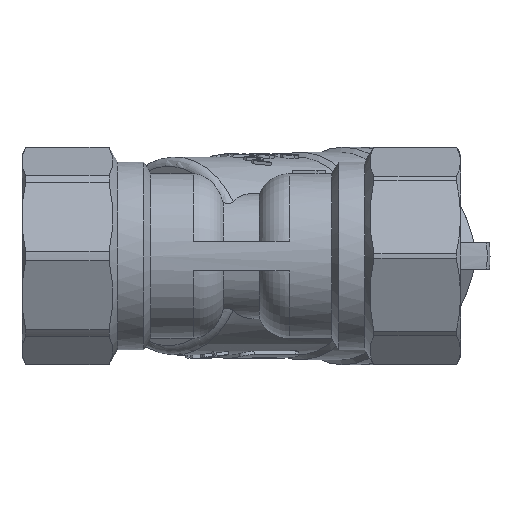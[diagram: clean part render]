
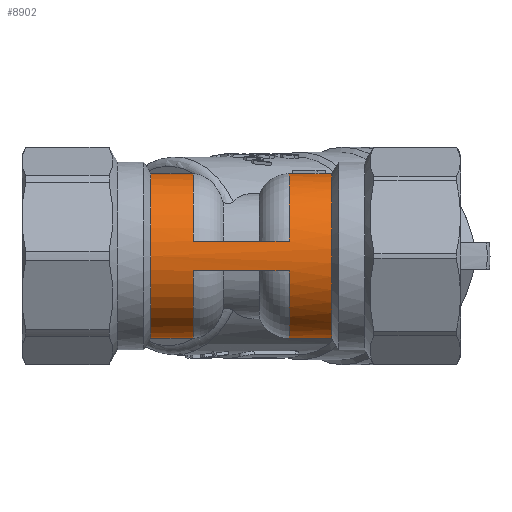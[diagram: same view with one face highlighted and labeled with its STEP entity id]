
A CAD part, front view. The second image highlights one B-rep face of the part: STEP entity #8902.
In plain terms, the highlighted cylindrical face has radius 12.5 mm (diameter 25 mm), a partial arc.
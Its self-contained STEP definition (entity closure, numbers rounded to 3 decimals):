
#28=ELLIPSE('',#9220,17.688,12.5);
#29=ELLIPSE('',#9222,17.688,12.5);
#591=B_SPLINE_CURVE_WITH_KNOTS('',3,(#15853,#15854,#15855,#15856),
 .UNSPECIFIED.,.F.,.F.,(4,4),(0.874,0.874),
 .UNSPECIFIED.);
#601=B_SPLINE_CURVE_WITH_KNOTS('',3,(#15957,#15958,#15959,#15960,#15961,
#15962),.UNSPECIFIED.,.F.,.F.,(4,2,4),(3.907,4.379,
4.66),.UNSPECIFIED.);
#606=B_SPLINE_CURVE_WITH_KNOTS('',3,(#15990,#15991,#15992,#15993,#15994,
#15995),.UNSPECIFIED.,.F.,.F.,(4,2,4),(1.178,1.459,
1.931),.UNSPECIFIED.);
#774=B_SPLINE_CURVE_WITH_KNOTS('',3,(#16983,#16984,#16985,#16986),
 .UNSPECIFIED.,.F.,.F.,(4,4),(0.306,0.306),
 .UNSPECIFIED.);
#1054=B_SPLINE_CURVE_WITH_KNOTS('',3,(#23248,#23249,#23250,#23251),
 .UNSPECIFIED.,.F.,.F.,(4,4),(0.,0.112),.UNSPECIFIED.);
#1055=B_SPLINE_CURVE_WITH_KNOTS('',3,(#23270,#23271,#23272,#23273),
 .UNSPECIFIED.,.F.,.F.,(4,4),(0.,0.112),.UNSPECIFIED.);
#1507=LINE('',#23225,#1899);
#1513=LINE('',#23280,#1905);
#1517=LINE('',#23473,#1909);
#1520=LINE('',#23524,#1912);
#1899=VECTOR('',#10041,10.);
#1905=VECTOR('',#10057,10.);
#1909=VECTOR('',#10111,10.);
#1912=VECTOR('',#10116,10.);
#2058=CYLINDRICAL_SURFACE('',#9347,12.5);
#2127=FACE_BOUND('',#3118,.T.);
#2576=FACE_OUTER_BOUND('',#3117,.T.);
#3117=EDGE_LOOP('',(#8039,#8040,#8041,#8042,#8043,#8044,#8045,#8046,#8047,
#8048,#8049,#8050,#8051,#8052));
#3118=EDGE_LOOP('',(#8053,#8054,#8055,#8056,#8057,#8058,#8059));
#3256=CIRCLE('',#9173,12.5);
#3257=CIRCLE('',#9176,12.5);
#3258=CIRCLE('',#9178,12.5);
#3272=CIRCLE('',#9207,12.5);
#3277=CIRCLE('',#9215,12.5);
#3278=CIRCLE('',#9217,12.5);
#3300=CIRCLE('',#9265,12.5);
#3333=CIRCLE('',#9346,12.5);
#3334=CIRCLE('',#9348,12.5);
#3557=VERTEX_POINT('',#15851);
#3558=VERTEX_POINT('',#15852);
#3571=VERTEX_POINT('',#15945);
#3572=VERTEX_POINT('',#15956);
#3577=VERTEX_POINT('',#15984);
#3578=VERTEX_POINT('',#15989);
#3746=VERTEX_POINT('',#16980);
#3747=VERTEX_POINT('',#16982);
#4030=VERTEX_POINT('',#23218);
#4031=VERTEX_POINT('',#23219);
#4032=VERTEX_POINT('',#23224);
#4033=VERTEX_POINT('',#23228);
#4034=VERTEX_POINT('',#23247);
#4035=VERTEX_POINT('',#23269);
#4036=VERTEX_POINT('',#23276);
#4063=VERTEX_POINT('',#23456);
#4065=VERTEX_POINT('',#23472);
#4068=VERTEX_POINT('',#23492);
#4070=VERTEX_POINT('',#23509);
#4072=VERTEX_POINT('',#23561);
#4073=VERTEX_POINT('',#23567);
#4565=EDGE_CURVE('',#3557,#3558,#591,.T.);
#4580=EDGE_CURVE('',#3572,#3571,#601,.T.);
#4586=EDGE_CURVE('',#3578,#3577,#606,.T.);
#4755=EDGE_CURVE('',#3747,#3746,#774,.T.);
#5259=EDGE_CURVE('',#4030,#4031,#3256,.T.);
#5262=EDGE_CURVE('',#4032,#4030,#1507,.T.);
#5264=EDGE_CURVE('',#4033,#4032,#3257,.T.);
#5266=EDGE_CURVE('',#4034,#4033,#1054,.T.);
#5268=EDGE_CURVE('',#4035,#4034,#1055,.T.);
#5270=EDGE_CURVE('',#4036,#4035,#3258,.T.);
#5272=EDGE_CURVE('',#4031,#4036,#1513,.T.);
#5309=EDGE_CURVE('',#4063,#4065,#1517,.T.);
#5315=EDGE_CURVE('',#4070,#4068,#1520,.T.);
#5316=EDGE_CURVE('',#3558,#4068,#3272,.T.);
#5321=EDGE_CURVE('',#3578,#4070,#3277,.T.);
#5322=EDGE_CURVE('',#4065,#3571,#3278,.T.);
#5325=EDGE_CURVE('',#3746,#4072,#28,.T.);
#5326=EDGE_CURVE('',#4073,#3557,#29,.T.);
#5394=EDGE_CURVE('',#3577,#3572,#3300,.T.);
#5498=EDGE_CURVE('',#4063,#3747,#3333,.T.);
#5499=EDGE_CURVE('',#4073,#4072,#3334,.T.);
#8039=ORIENTED_EDGE('',*,*,#5498,.T.);
#8040=ORIENTED_EDGE('',*,*,#4755,.T.);
#8041=ORIENTED_EDGE('',*,*,#5325,.T.);
#8042=ORIENTED_EDGE('',*,*,#5499,.F.);
#8043=ORIENTED_EDGE('',*,*,#5326,.T.);
#8044=ORIENTED_EDGE('',*,*,#4565,.T.);
#8045=ORIENTED_EDGE('',*,*,#5316,.T.);
#8046=ORIENTED_EDGE('',*,*,#5315,.F.);
#8047=ORIENTED_EDGE('',*,*,#5321,.F.);
#8048=ORIENTED_EDGE('',*,*,#4586,.T.);
#8049=ORIENTED_EDGE('',*,*,#5394,.T.);
#8050=ORIENTED_EDGE('',*,*,#4580,.T.);
#8051=ORIENTED_EDGE('',*,*,#5322,.F.);
#8052=ORIENTED_EDGE('',*,*,#5309,.F.);
#8053=ORIENTED_EDGE('',*,*,#5259,.T.);
#8054=ORIENTED_EDGE('',*,*,#5272,.T.);
#8055=ORIENTED_EDGE('',*,*,#5270,.T.);
#8056=ORIENTED_EDGE('',*,*,#5268,.T.);
#8057=ORIENTED_EDGE('',*,*,#5266,.T.);
#8058=ORIENTED_EDGE('',*,*,#5264,.T.);
#8059=ORIENTED_EDGE('',*,*,#5262,.T.);
#8902=ADVANCED_FACE('',(#2576,#2127),#2058,.T.);
#9173=AXIS2_PLACEMENT_3D('',#23220,#10035,#10036);
#9176=AXIS2_PLACEMENT_3D('',#23229,#10045,#10046);
#9178=AXIS2_PLACEMENT_3D('',#23277,#10052,#10053);
#9207=AXIS2_PLACEMENT_3D('',#23547,#10119,#10120);
#9215=AXIS2_PLACEMENT_3D('',#23555,#10135,#10136);
#9217=AXIS2_PLACEMENT_3D('',#23557,#10139,#10140);
#9220=AXIS2_PLACEMENT_3D('',#23565,#10145,#10146);
#9222=AXIS2_PLACEMENT_3D('',#23568,#10149,#10150);
#9265=AXIS2_PLACEMENT_3D('',#23805,#10247,#10248);
#9346=AXIS2_PLACEMENT_3D('',#24121,#10437,#10438);
#9347=AXIS2_PLACEMENT_3D('',#24122,#10439,#10440);
#9348=AXIS2_PLACEMENT_3D('',#24123,#10441,#10442);
#10035=DIRECTION('center_axis',(-1.,0.,0.));
#10036=DIRECTION('ref_axis',(0.,-1.,0.));
#10041=DIRECTION('',(-1.,0.,0.));
#10045=DIRECTION('center_axis',(-1.,0.,0.));
#10046=DIRECTION('ref_axis',(0.,-1.,0.));
#10052=DIRECTION('center_axis',(-1.,0.,0.));
#10053=DIRECTION('ref_axis',(0.,-1.,0.));
#10057=DIRECTION('',(1.,0.,0.));
#10111=DIRECTION('',(1.,0.,0.));
#10116=DIRECTION('',(-1.,0.,0.));
#10119=DIRECTION('center_axis',(-1.,0.,0.));
#10120=DIRECTION('ref_axis',(0.,0.,1.));
#10135=DIRECTION('center_axis',(-1.,0.,0.));
#10136=DIRECTION('ref_axis',(0.,0.,1.));
#10139=DIRECTION('center_axis',(-1.,0.,0.));
#10140=DIRECTION('ref_axis',(0.,0.,1.));
#10145=DIRECTION('center_axis',(-0.707,-0.708,0.));
#10146=DIRECTION('ref_axis',(0.708,-0.707,0.));
#10149=DIRECTION('center_axis',(-0.707,-0.708,0.));
#10150=DIRECTION('ref_axis',(0.708,-0.707,0.));
#10247=DIRECTION('center_axis',(-1.,0.,0.));
#10248=DIRECTION('ref_axis',(0.,0.,1.));
#10437=DIRECTION('center_axis',(-1.,0.,0.));
#10438=DIRECTION('ref_axis',(0.,0.,1.));
#10439=DIRECTION('center_axis',(-1.,0.,0.));
#10440=DIRECTION('ref_axis',(0.,-1.,0.));
#10441=DIRECTION('center_axis',(-1.,0.,0.));
#10442=DIRECTION('ref_axis',(0.,0.,1.));
#15851=CARTESIAN_POINT('',(-40.115,-0.629,-12.484));
#15852=CARTESIAN_POINT('',(-40.112,-0.632,-12.484));
#15853=CARTESIAN_POINT('Ctrl Pts',(-40.115,-0.629,
-12.484));
#15854=CARTESIAN_POINT('Ctrl Pts',(-40.114,-0.63,
-12.484));
#15855=CARTESIAN_POINT('Ctrl Pts',(-40.113,-0.631,
-12.484));
#15856=CARTESIAN_POINT('Ctrl Pts',(-40.112,-0.632,
-12.484));
#15945=CARTESIAN_POINT('',(-25.612,6.562,10.639));
#15956=CARTESIAN_POINT('',(-19.112,9.833,7.718));
#15957=CARTESIAN_POINT('Ctrl Pts',(-19.112,9.833,7.718));
#15958=CARTESIAN_POINT('Ctrl Pts',(-20.355,9.235,8.48));
#15959=CARTESIAN_POINT('Ctrl Pts',(-21.7,8.577,9.138));
#15960=CARTESIAN_POINT('Ctrl Pts',(-23.919,7.452,10.05));
#15961=CARTESIAN_POINT('Ctrl Pts',(-24.763,7.015,10.36));
#15962=CARTESIAN_POINT('Ctrl Pts',(-25.612,6.562,10.639));
#15984=CARTESIAN_POINT('',(-19.112,9.833,-7.718));
#15989=CARTESIAN_POINT('',(-25.612,6.562,-10.639));
#15990=CARTESIAN_POINT('Ctrl Pts',(-25.612,6.562,-10.639));
#15991=CARTESIAN_POINT('Ctrl Pts',(-24.763,7.015,-10.36));
#15992=CARTESIAN_POINT('Ctrl Pts',(-23.919,7.452,-10.05));
#15993=CARTESIAN_POINT('Ctrl Pts',(-21.7,8.577,-9.138));
#15994=CARTESIAN_POINT('Ctrl Pts',(-20.355,9.235,-8.48));
#15995=CARTESIAN_POINT('Ctrl Pts',(-19.112,9.833,-7.718));
#16980=CARTESIAN_POINT('',(-40.115,-0.629,12.484));
#16982=CARTESIAN_POINT('',(-40.112,-0.632,12.484));
#16983=CARTESIAN_POINT('Ctrl Pts',(-40.112,-0.632,
12.484));
#16984=CARTESIAN_POINT('Ctrl Pts',(-40.113,-0.631,
12.484));
#16985=CARTESIAN_POINT('Ctrl Pts',(-40.114,-0.63,
12.484));
#16986=CARTESIAN_POINT('Ctrl Pts',(-40.115,-0.629,
12.484));
#23218=CARTESIAN_POINT('',(-25.124,-1.019,12.458));
#23219=CARTESIAN_POINT('',(-25.124,0.979,12.462));
#23220=CARTESIAN_POINT('Origin',(-25.124,0.,0.));
#23224=CARTESIAN_POINT('',(-21.374,-1.019,12.458));
#23225=CARTESIAN_POINT('',(-43.362,-1.019,12.458));
#23228=CARTESIAN_POINT('',(-21.374,-1.416,12.42));
#23229=CARTESIAN_POINT('Origin',(-21.374,0.,0.));
#23247=CARTESIAN_POINT('',(-20.124,-0.02,12.5));
#23248=CARTESIAN_POINT('Ctrl Pts',(-20.124,-0.02,
12.5));
#23249=CARTESIAN_POINT('Ctrl Pts',(-20.541,-0.486,
12.499));
#23250=CARTESIAN_POINT('Ctrl Pts',(-20.957,-0.953,
12.472));
#23251=CARTESIAN_POINT('Ctrl Pts',(-21.374,-1.416,
12.42));
#23269=CARTESIAN_POINT('',(-21.374,1.376,12.424));
#23270=CARTESIAN_POINT('Ctrl Pts',(-21.374,1.376,12.424));
#23271=CARTESIAN_POINT('Ctrl Pts',(-20.957,0.913,
12.475));
#23272=CARTESIAN_POINT('Ctrl Pts',(-20.541,0.446,
12.501));
#23273=CARTESIAN_POINT('Ctrl Pts',(-20.124,-0.02,
12.5));
#23276=CARTESIAN_POINT('',(-21.374,0.979,12.462));
#23277=CARTESIAN_POINT('Origin',(-21.374,0.,0.));
#23280=CARTESIAN_POINT('',(-43.362,0.979,12.462));
#23456=CARTESIAN_POINT('',(-40.112,-12.296,2.247));
#23472=CARTESIAN_POINT('',(-25.612,-12.296,2.247));
#23473=CARTESIAN_POINT('',(14.191,-12.296,2.247));
#23492=CARTESIAN_POINT('',(-40.112,-12.295,-2.253));
#23509=CARTESIAN_POINT('',(-25.612,-12.295,-2.253));
#23524=CARTESIAN_POINT('',(14.191,-12.295,-2.253));
#23547=CARTESIAN_POINT('Origin',(-40.112,0.,0.));
#23555=CARTESIAN_POINT('Origin',(-25.612,0.,0.));
#23557=CARTESIAN_POINT('Origin',(-25.612,0.,0.));
#23561=CARTESIAN_POINT('',(-46.612,5.861,11.041));
#23565=CARTESIAN_POINT('Origin',(-40.745,0.,0.));
#23567=CARTESIAN_POINT('',(-46.612,5.861,-11.041));
#23568=CARTESIAN_POINT('Origin',(-40.745,0.,0.));
#23805=CARTESIAN_POINT('Origin',(-19.112,0.,0.));
#24121=CARTESIAN_POINT('Origin',(-40.112,0.,0.));
#24122=CARTESIAN_POINT('Origin',(-43.362,0.,0.));
#24123=CARTESIAN_POINT('Origin',(-46.612,0.,0.));
